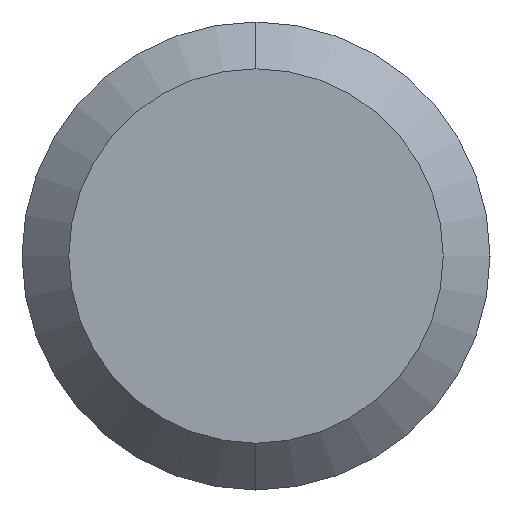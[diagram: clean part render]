
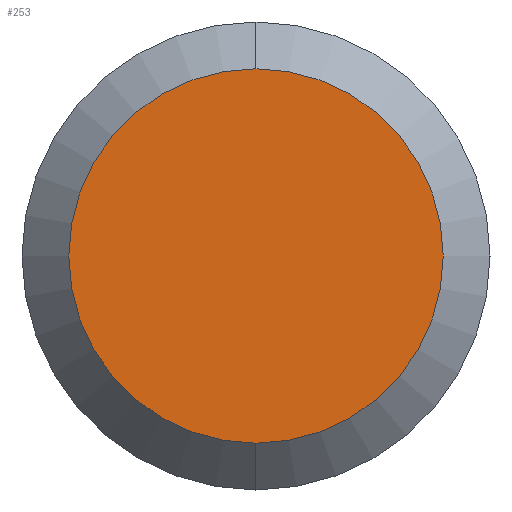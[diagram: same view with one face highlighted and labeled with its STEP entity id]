
A CAD part, left-side view. The second image highlights one B-rep face of the part: STEP entity #253.
In plain terms, the highlighted planar face has unit normal (-1, 0, 0).
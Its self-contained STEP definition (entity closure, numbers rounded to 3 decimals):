
#26 = CIRCLE ( 'NONE', #125, 4. ) ;
#30 = AXIS2_PLACEMENT_3D ( 'NONE', #118, #230, #197 ) ;
#35 = DIRECTION ( 'NONE',  ( 0., 0., 1. ) ) ;
#40 = PLANE ( 'NONE',  #30 ) ;
#61 = ORIENTED_EDGE ( 'NONE', *, *, #236, .T. ) ;
#64 = CIRCLE ( 'NONE', #157, 4. ) ;
#65 = DIRECTION ( 'NONE',  ( -1., 0., 0. ) ) ;
#116 = DIRECTION ( 'NONE',  ( -1., 0., 0. ) ) ;
#118 = CARTESIAN_POINT ( 'NONE',  ( 0., 4., 0. ) ) ;
#125 = AXIS2_PLACEMENT_3D ( 'NONE', #303, #65, #35 ) ;
#157 = AXIS2_PLACEMENT_3D ( 'NONE', #280, #116, #200 ) ;
#159 = EDGE_CURVE ( 'NONE', #255, #279, #26, .T. ) ;
#160 = ORIENTED_EDGE ( 'NONE', *, *, #159, .T. ) ;
#174 = CARTESIAN_POINT ( 'NONE',  ( 0., 0., -4. ) ) ;
#197 = DIRECTION ( 'NONE',  ( 0., 0., -1. ) ) ;
#200 = DIRECTION ( 'NONE',  ( 0., 0., 1. ) ) ;
#230 = DIRECTION ( 'NONE',  ( 1., 0., 0. ) ) ;
#236 = EDGE_CURVE ( 'NONE', #279, #255, #64, .T. ) ;
#253 = ADVANCED_FACE ( 'NONE', ( #342 ), #40, .F. ) ;
#255 = VERTEX_POINT ( 'NONE', #174 ) ;
#271 = EDGE_LOOP ( 'NONE', ( #160, #61 ) ) ;
#279 = VERTEX_POINT ( 'NONE', #282 ) ;
#280 = CARTESIAN_POINT ( 'NONE',  ( 0., 0., 0. ) ) ;
#282 = CARTESIAN_POINT ( 'NONE',  ( 0., 0., 4. ) ) ;
#303 = CARTESIAN_POINT ( 'NONE',  ( 0., 0., 0. ) ) ;
#342 = FACE_OUTER_BOUND ( 'NONE', #271, .T. ) ;
